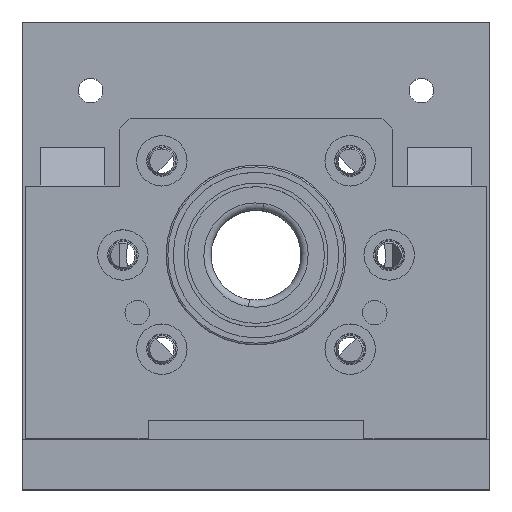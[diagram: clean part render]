
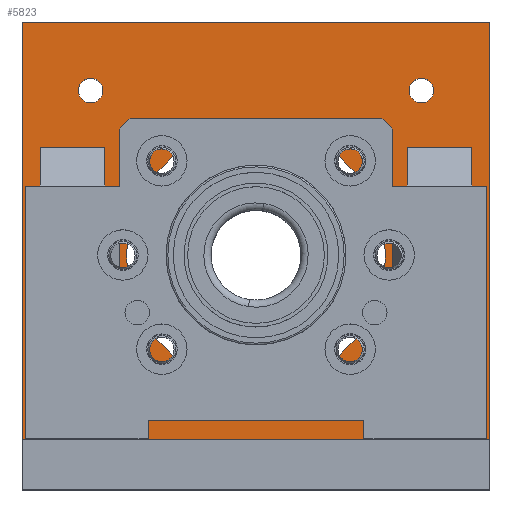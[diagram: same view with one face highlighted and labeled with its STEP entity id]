
A CAD part, top view. The second image highlights one B-rep face of the part: STEP entity #5823.
In plain terms, the highlighted planar face has unit normal (0, 0, 1).
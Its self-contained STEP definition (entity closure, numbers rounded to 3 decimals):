
#117 = VERTEX_POINT ( 'NONE', #934 ) ;
#164 = EDGE_CURVE ( 'NONE', #117, #5875, #2629, .T. ) ;
#212 = DIRECTION ( 'NONE',  ( 0., 0., 1. ) ) ;
#277 = EDGE_CURVE ( 'NONE', #6675, #1634, #5066, .T. ) ;
#280 = CARTESIAN_POINT ( 'NONE',  ( -65., 30., 20. ) ) ;
#303 = ORIENTED_EDGE ( 'NONE', *, *, #541, .F. ) ;
#325 = LINE ( 'NONE', #7437, #7119 ) ;
#367 = CARTESIAN_POINT ( 'NONE',  ( 45.962, 45.962, 20. ) ) ;
#402 = CARTESIAN_POINT ( 'NONE',  ( -65., -51., 20. ) ) ;
#432 = CIRCLE ( 'NONE', #1151, 3.4 ) ;
#459 = EDGE_LOOP ( 'NONE', ( #4624, #3378, #3974, #7106, #6667, #3892, #1921, #2116, #7047, #6022, #6171, #3088 ) ) ;
#460 = DIRECTION ( 'NONE',  ( -1., 0., 0. ) ) ;
#482 = CARTESIAN_POINT ( 'NONE',  ( 60., 8., 20. ) ) ;
#483 = DIRECTION ( 'NONE',  ( 0., 0., 1. ) ) ;
#490 = DIRECTION ( 'NONE',  ( 0., -1., 0. ) ) ;
#527 = VERTEX_POINT ( 'NONE', #5516 ) ;
#541 = EDGE_CURVE ( 'NONE', #8237, #527, #432, .T. ) ;
#544 = LINE ( 'NONE', #6399, #2625 ) ;
#558 = ORIENTED_EDGE ( 'NONE', *, *, #277, .F. ) ;
#680 = CARTESIAN_POINT ( 'NONE',  ( -65., 65., 20. ) ) ;
#845 = AXIS2_PLACEMENT_3D ( 'NONE', #4348, #483, #4983 ) ;
#862 = EDGE_CURVE ( 'NONE', #3871, #3882, #4852, .T. ) ;
#933 = VECTOR ( 'NONE', #7377, 1000. ) ;
#934 = CARTESIAN_POINT ( 'NONE',  ( 65., -51., 20. ) ) ;
#972 = FACE_BOUND ( 'NONE', #5522, .T. ) ;
#1079 = VERTEX_POINT ( 'NONE', #7897 ) ;
#1109 = CARTESIAN_POINT ( 'NONE',  ( -65., -51., 20. ) ) ;
#1151 = AXIS2_PLACEMENT_3D ( 'NONE', #367, #7994, #5498 ) ;
#1168 = LINE ( 'NONE', #4237, #4193 ) ;
#1193 = DIRECTION ( 'NONE',  ( 1., 0., 0. ) ) ;
#1245 = VERTEX_POINT ( 'NONE', #1790 ) ;
#1416 = LINE ( 'NONE', #2890, #6346 ) ;
#1634 = VERTEX_POINT ( 'NONE', #3561 ) ;
#1686 = EDGE_CURVE ( 'NONE', #4822, #4829, #1416, .T. ) ;
#1717 = VERTEX_POINT ( 'NONE', #6185 ) ;
#1764 = ORIENTED_EDGE ( 'NONE', *, *, #3689, .F. ) ;
#1789 = CARTESIAN_POINT ( 'NONE',  ( -60., 8., 20. ) ) ;
#1790 = CARTESIAN_POINT ( 'NONE',  ( 60., 30., 20. ) ) ;
#1800 = CARTESIAN_POINT ( 'NONE',  ( -65., -65., 20. ) ) ;
#1802 = EDGE_CURVE ( 'NONE', #2781, #4822, #7443, .T. ) ;
#1896 = DIRECTION ( 'NONE',  ( 0., 1., 0. ) ) ;
#1921 = ORIENTED_EDGE ( 'NONE', *, *, #3899, .F. ) ;
#2051 = AXIS2_PLACEMENT_3D ( 'NONE', #6369, #2521, #7007 ) ;
#2067 = CARTESIAN_POINT ( 'NONE',  ( 60., -51., 20. ) ) ;
#2116 = ORIENTED_EDGE ( 'NONE', *, *, #3578, .F. ) ;
#2152 = CARTESIAN_POINT ( 'NONE',  ( -60., 30., 20. ) ) ;
#2185 = CARTESIAN_POINT ( 'NONE',  ( 36., 0., 20. ) ) ;
#2521 = DIRECTION ( 'NONE',  ( 0., 0., 1. ) ) ;
#2556 = VECTOR ( 'NONE', #4536, 1000. ) ;
#2625 = VECTOR ( 'NONE', #1896, 1000. ) ;
#2629 = LINE ( 'NONE', #5482, #933 ) ;
#2655 = FACE_BOUND ( 'NONE', #3430, .T. ) ;
#2656 = DIRECTION ( 'NONE',  ( 0., 0., 1. ) ) ;
#2684 = DIRECTION ( 'NONE',  ( -1., 0., 0. ) ) ;
#2697 = VERTEX_POINT ( 'NONE', #2067 ) ;
#2781 = VERTEX_POINT ( 'NONE', #2152 ) ;
#2857 = CIRCLE ( 'NONE', #5682, 3.4 ) ;
#2890 = CARTESIAN_POINT ( 'NONE',  ( -65., -51., 20. ) ) ;
#3088 = ORIENTED_EDGE ( 'NONE', *, *, #7710, .T. ) ;
#3195 = CARTESIAN_POINT ( 'NONE',  ( 0., 0., 20. ) ) ;
#3328 = CIRCLE ( 'NONE', #3725, 36. ) ;
#3378 = ORIENTED_EDGE ( 'NONE', *, *, #164, .T. ) ;
#3430 = EDGE_LOOP ( 'NONE', ( #1764, #6317 ) ) ;
#3506 = CARTESIAN_POINT ( 'NONE',  ( 42., 30., 20. ) ) ;
#3561 = CARTESIAN_POINT ( 'NONE',  ( -49.362, 45.962, 20. ) ) ;
#3567 = CARTESIAN_POINT ( 'NONE',  ( 49.362, 45.962, 20. ) ) ;
#3570 = LINE ( 'NONE', #482, #5078 ) ;
#3578 = EDGE_CURVE ( 'NONE', #5188, #1717, #544, .T. ) ;
#3594 = LINE ( 'NONE', #1109, #6774 ) ;
#3689 = EDGE_CURVE ( 'NONE', #3882, #3871, #3328, .T. ) ;
#3725 = AXIS2_PLACEMENT_3D ( 'NONE', #6491, #2656, #7137 ) ;
#3742 = PLANE ( 'NONE',  #4185 ) ;
#3807 = CARTESIAN_POINT ( 'NONE',  ( 65., 65., 20. ) ) ;
#3871 = VERTEX_POINT ( 'NONE', #2185 ) ;
#3882 = VERTEX_POINT ( 'NONE', #4148 ) ;
#3892 = ORIENTED_EDGE ( 'NONE', *, *, #1802, .F. ) ;
#3899 = EDGE_CURVE ( 'NONE', #1717, #2781, #5149, .T. ) ;
#3968 = VECTOR ( 'NONE', #2684, 1000. ) ;
#3974 = ORIENTED_EDGE ( 'NONE', *, *, #4092, .T. ) ;
#4006 = CARTESIAN_POINT ( 'NONE',  ( -65., 65., 20. ) ) ;
#4073 = VECTOR ( 'NONE', #5196, 1000. ) ;
#4077 = CARTESIAN_POINT ( 'NONE',  ( -45.962, 45.962, 20. ) ) ;
#4092 = EDGE_CURVE ( 'NONE', #5875, #8151, #325, .T. ) ;
#4148 = CARTESIAN_POINT ( 'NONE',  ( -36., 0., 20. ) ) ;
#4185 = AXIS2_PLACEMENT_3D ( 'NONE', #1800, #5027, #1193 ) ;
#4193 = VECTOR ( 'NONE', #6152, 1000. ) ;
#4237 = CARTESIAN_POINT ( 'NONE',  ( 42., 8., 20. ) ) ;
#4294 = LINE ( 'NONE', #680, #2556 ) ;
#4348 = CARTESIAN_POINT ( 'NONE',  ( -45.962, 45.962, 20. ) ) ;
#4405 = FACE_OUTER_BOUND ( 'NONE', #459, .T. ) ;
#4429 = AXIS2_PLACEMENT_3D ( 'NONE', #3195, #5112, #7024 ) ;
#4536 = DIRECTION ( 'NONE',  ( 0., -1., 0. ) ) ;
#4624 = ORIENTED_EDGE ( 'NONE', *, *, #8103, .F. ) ;
#4674 = EDGE_LOOP ( 'NONE', ( #4820, #303 ) ) ;
#4707 = DIRECTION ( 'NONE',  ( 1., 0., 0. ) ) ;
#4820 = ORIENTED_EDGE ( 'NONE', *, *, #4948, .F. ) ;
#4822 = VERTEX_POINT ( 'NONE', #6180 ) ;
#4829 = VERTEX_POINT ( 'NONE', #402 ) ;
#4852 = CIRCLE ( 'NONE', #4429, 36. ) ;
#4948 = EDGE_CURVE ( 'NONE', #527, #8237, #6816, .T. ) ;
#4983 = DIRECTION ( 'NONE',  ( 1., 0., 0. ) ) ;
#5027 = DIRECTION ( 'NONE',  ( 0., 0., 1. ) ) ;
#5066 = CIRCLE ( 'NONE', #845, 3.4 ) ;
#5078 = VECTOR ( 'NONE', #6265, 1000. ) ;
#5112 = DIRECTION ( 'NONE',  ( 0., 0., 1. ) ) ;
#5149 = LINE ( 'NONE', #280, #6628 ) ;
#5188 = VERTEX_POINT ( 'NONE', #6315 ) ;
#5196 = DIRECTION ( 'NONE',  ( -1., 0., 0. ) ) ;
#5409 = DIRECTION ( 'NONE',  ( -1., 0., 0. ) ) ;
#5482 = CARTESIAN_POINT ( 'NONE',  ( 65., 65., 20. ) ) ;
#5498 = DIRECTION ( 'NONE',  ( 1., 0., 0. ) ) ;
#5516 = CARTESIAN_POINT ( 'NONE',  ( 42.562, 45.962, 20. ) ) ;
#5522 = EDGE_LOOP ( 'NONE', ( #7629, #558 ) ) ;
#5544 = VECTOR ( 'NONE', #490, 1000. ) ;
#5682 = AXIS2_PLACEMENT_3D ( 'NONE', #4077, #212, #4707 ) ;
#5773 = LINE ( 'NONE', #7087, #4073 ) ;
#5823 = ADVANCED_FACE ( 'NONE', ( #7790, #4405, #2655, #972 ), #3742, .T. ) ;
#5875 = VERTEX_POINT ( 'NONE', #3807 ) ;
#5894 = CARTESIAN_POINT ( 'NONE',  ( -65., -51., 20. ) ) ;
#6022 = ORIENTED_EDGE ( 'NONE', *, *, #7603, .T. ) ;
#6152 = DIRECTION ( 'NONE',  ( 0., 1., 0. ) ) ;
#6171 = ORIENTED_EDGE ( 'NONE', *, *, #7328, .F. ) ;
#6180 = CARTESIAN_POINT ( 'NONE',  ( -60., -51., 20. ) ) ;
#6185 = CARTESIAN_POINT ( 'NONE',  ( -42., 30., 20. ) ) ;
#6228 = CARTESIAN_POINT ( 'NONE',  ( -42.562, 45.962, 20. ) ) ;
#6265 = DIRECTION ( 'NONE',  ( 0., -1., 0. ) ) ;
#6315 = CARTESIAN_POINT ( 'NONE',  ( -42., -51., 20. ) ) ;
#6317 = ORIENTED_EDGE ( 'NONE', *, *, #862, .F. ) ;
#6346 = VECTOR ( 'NONE', #8100, 1000. ) ;
#6369 = CARTESIAN_POINT ( 'NONE',  ( 45.962, 45.962, 20. ) ) ;
#6399 = CARTESIAN_POINT ( 'NONE',  ( -42., 8., 20. ) ) ;
#6491 = CARTESIAN_POINT ( 'NONE',  ( 0., 0., 20. ) ) ;
#6628 = VECTOR ( 'NONE', #5409, 1000. ) ;
#6667 = ORIENTED_EDGE ( 'NONE', *, *, #1686, .F. ) ;
#6671 = EDGE_CURVE ( 'NONE', #1079, #5188, #3594, .T. ) ;
#6675 = VERTEX_POINT ( 'NONE', #6228 ) ;
#6774 = VECTOR ( 'NONE', #460, 1000. ) ;
#6816 = CIRCLE ( 'NONE', #2051, 3.4 ) ;
#7007 = DIRECTION ( 'NONE',  ( 1., 0., 0. ) ) ;
#7024 = DIRECTION ( 'NONE',  ( 1., 0., 0. ) ) ;
#7047 = ORIENTED_EDGE ( 'NONE', *, *, #6671, .F. ) ;
#7056 = EDGE_CURVE ( 'NONE', #1634, #6675, #2857, .T. ) ;
#7087 = CARTESIAN_POINT ( 'NONE',  ( -65., 30., 20. ) ) ;
#7106 = ORIENTED_EDGE ( 'NONE', *, *, #7309, .T. ) ;
#7119 = VECTOR ( 'NONE', #8071, 1000. ) ;
#7137 = DIRECTION ( 'NONE',  ( 1., 0., 0. ) ) ;
#7309 = EDGE_CURVE ( 'NONE', #8151, #4829, #4294, .T. ) ;
#7328 = EDGE_CURVE ( 'NONE', #1245, #7729, #5773, .T. ) ;
#7377 = DIRECTION ( 'NONE',  ( 0., 1., 0. ) ) ;
#7437 = CARTESIAN_POINT ( 'NONE',  ( -65., 65., 20. ) ) ;
#7443 = LINE ( 'NONE', #1789, #5544 ) ;
#7574 = LINE ( 'NONE', #5894, #3968 ) ;
#7603 = EDGE_CURVE ( 'NONE', #1079, #7729, #1168, .T. ) ;
#7629 = ORIENTED_EDGE ( 'NONE', *, *, #7056, .F. ) ;
#7710 = EDGE_CURVE ( 'NONE', #1245, #2697, #3570, .T. ) ;
#7729 = VERTEX_POINT ( 'NONE', #3506 ) ;
#7790 = FACE_BOUND ( 'NONE', #4674, .T. ) ;
#7897 = CARTESIAN_POINT ( 'NONE',  ( 42., -51., 20. ) ) ;
#7994 = DIRECTION ( 'NONE',  ( 0., 0., 1. ) ) ;
#8071 = DIRECTION ( 'NONE',  ( -1., 0., 0. ) ) ;
#8100 = DIRECTION ( 'NONE',  ( -1., 0., 0. ) ) ;
#8103 = EDGE_CURVE ( 'NONE', #117, #2697, #7574, .T. ) ;
#8151 = VERTEX_POINT ( 'NONE', #4006 ) ;
#8237 = VERTEX_POINT ( 'NONE', #3567 ) ;
